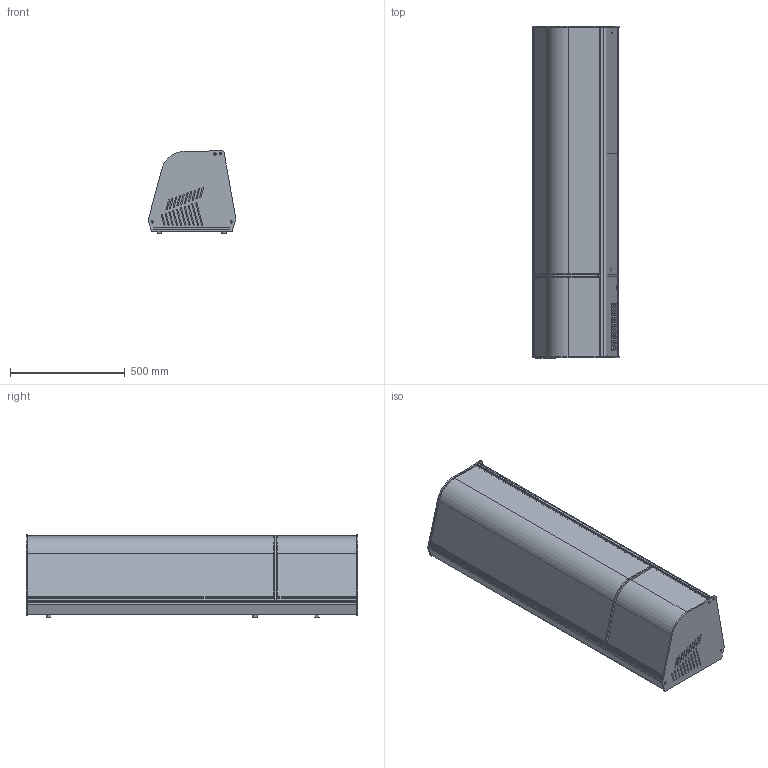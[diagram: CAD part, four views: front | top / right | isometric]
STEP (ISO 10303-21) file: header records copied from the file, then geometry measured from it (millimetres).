
FILE_DESCRIPTION(/* description */ ('Unknown'),/* implementation_level */ '2;1');
FILE_NAME(/* name */ 'Vitrina frigorifica 6B_DOBLE_V1',/* time_stamp */ '2018-04-24T13:09:21+02:00',/* author */ ('Unknown'),/* organization */ ('Unknown'),/* preprocessor_version */ 'ST-DEVELOPER v16.7',/* originating_system */ 'DEX',/* authorisation */ $);
FILE_SCHEMA (('CONFIG_CONTROL_DESIGN'));
Length unit declared in the file: millimetre
Products named in the file (19): Vitrina frigorifica 6B_DOBLE_V1; 46-1+6B+V1_oa_0; 46-21; 46-1+6B+V1_oa_1; 46-37; 46-3+uc; 46-3+6B; 46-78+7780_oa_2; 46-9+6700; 46-26+6B_v1; 46-22+sep doble_V1; 46-14+6703; 46-23+6B_DOBLE_V1; 46-18+6B_v2; 46-51+U_C._oa_3; 46-25+6705; 46-40; 46-83_oa_4; 46-39
Assembly tree (24 placements, depth 3):
  Vitrina frigorifica 6B_DOBLE_V1
    46-1+6B+V1_oa_0
    46-21
    46-1+6B+V1_oa_1
    46-37
    46-3+uc
    46-3+6B
    46-78+7780_oa_2
      46-9+6700
    46-26+6B_v1
    46-22+sep doble_V1
    46-14+6703
    46-23+6B_DOBLE_V1  x2
    46-18+6B_v2
    46-51+U_C._oa_3
      46-25+6705
    46-40  x6
    46-83_oa_4
      46-39
Bounding box: 382.25 x 1447 x 361.46 mm (x, y, z)
Volume: 7985409.8 mm3; surface area: 5654856.5 mm2
Topology: 21 solids, 21 shells, 1309 faces, 3708 edges, 2446 vertices
Faces by surface type: plane 979, cylinder 291, cone 17, bspline 16, torus 6
Full cylindrical faces by diameter (mm): 3 x4, 3.5 x2, 5 x4, 5.5 x4, 6 x9, 8 x23, 16.5 x1, 30 x2
Entity records: 42827 total; most frequent: CARTESIAN_POINT 7698, ORIENTED_EDGE 7136, DIRECTION 6643, EDGE_CURVE 3568, LINE 2963, VECTOR 2963, VERTEX_POINT 2383, AXIS2_PLACEMENT_3D 1840
